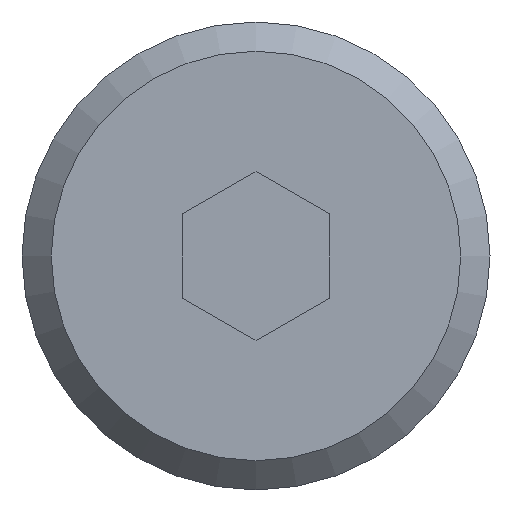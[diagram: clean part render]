
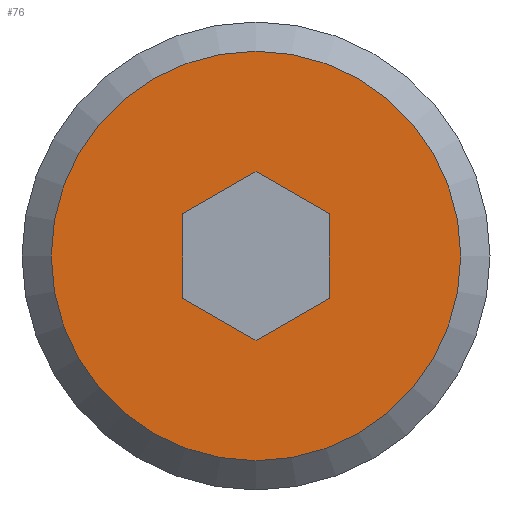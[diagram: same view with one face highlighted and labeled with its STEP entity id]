
A CAD part, front view. The second image highlights one B-rep face of the part: STEP entity #76.
In plain terms, the highlighted planar face has unit normal (0, -1, 0).
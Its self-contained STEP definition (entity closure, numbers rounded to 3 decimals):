
#76 = ADVANCED_FACE( '', ( #94, #95 ), #96, .F. );
#94 = FACE_OUTER_BOUND( '', #132, .T. );
#95 = FACE_BOUND( '', #133, .T. );
#96 = PLANE( '', #134 );
#132 = EDGE_LOOP( '', ( #172 ) );
#133 = EDGE_LOOP( '', ( #173, #174, #175, #176, #177, #178 ) );
#134 = AXIS2_PLACEMENT_3D( '', #179, #180, #181 );
#172 = ORIENTED_EDGE( '', *, *, #264, .F. );
#173 = ORIENTED_EDGE( '', *, *, #265, .T. );
#174 = ORIENTED_EDGE( '', *, *, #266, .T. );
#175 = ORIENTED_EDGE( '', *, *, #267, .T. );
#176 = ORIENTED_EDGE( '', *, *, #268, .T. );
#177 = ORIENTED_EDGE( '', *, *, #269, .T. );
#178 = ORIENTED_EDGE( '', *, *, #270, .T. );
#179 = CARTESIAN_POINT( '', ( 0., 0., 0. ) );
#180 = DIRECTION( '', ( 0., 1., 0. ) );
#181 = DIRECTION( '', ( 0., 0., 1. ) );
#264 = EDGE_CURVE( '', #291, #291, #292, .T. );
#265 = EDGE_CURVE( '', #293, #294, #295, .T. );
#266 = EDGE_CURVE( '', #294, #296, #297, .T. );
#267 = EDGE_CURVE( '', #296, #298, #299, .T. );
#268 = EDGE_CURVE( '', #298, #300, #301, .T. );
#269 = EDGE_CURVE( '', #300, #302, #303, .T. );
#270 = EDGE_CURVE( '', #302, #293, #304, .T. );
#291 = VERTEX_POINT( '', #335 );
#292 = CIRCLE( '', #336, 7. );
#293 = VERTEX_POINT( '', #337 );
#294 = VERTEX_POINT( '', #338 );
#295 = LINE( '', #339, #340 );
#296 = VERTEX_POINT( '', #341 );
#297 = LINE( '', #342, #343 );
#298 = VERTEX_POINT( '', #344 );
#299 = LINE( '', #345, #346 );
#300 = VERTEX_POINT( '', #347 );
#301 = LINE( '', #348, #349 );
#302 = VERTEX_POINT( '', #350 );
#303 = LINE( '', #351, #352 );
#304 = LINE( '', #353, #354 );
#335 = CARTESIAN_POINT( '', ( 0., 0., 7. ) );
#336 = AXIS2_PLACEMENT_3D( '', #398, #399, #400 );
#337 = CARTESIAN_POINT( '', ( -2.5, 0., -1.443 ) );
#338 = CARTESIAN_POINT( '', ( -2.5, 0., 1.443 ) );
#339 = CARTESIAN_POINT( '', ( -2.5, 0., -1.443 ) );
#340 = VECTOR( '', #401, 1000. );
#341 = CARTESIAN_POINT( '', ( 0., 0., 2.887 ) );
#342 = CARTESIAN_POINT( '', ( -2.5, 0., 1.443 ) );
#343 = VECTOR( '', #402, 1000. );
#344 = CARTESIAN_POINT( '', ( 2.5, 0., 1.443 ) );
#345 = CARTESIAN_POINT( '', ( 0., 0., 2.887 ) );
#346 = VECTOR( '', #403, 1000. );
#347 = CARTESIAN_POINT( '', ( 2.5, 0., -1.443 ) );
#348 = CARTESIAN_POINT( '', ( 2.5, 0., 1.443 ) );
#349 = VECTOR( '', #404, 1000. );
#350 = CARTESIAN_POINT( '', ( 0., 0., -2.887 ) );
#351 = CARTESIAN_POINT( '', ( 2.5, 0., -1.443 ) );
#352 = VECTOR( '', #405, 1000. );
#353 = CARTESIAN_POINT( '', ( 0., 0., -2.887 ) );
#354 = VECTOR( '', #406, 1000. );
#398 = CARTESIAN_POINT( '', ( 0., 0., 0. ) );
#399 = DIRECTION( '', ( 0., 1., 0. ) );
#400 = DIRECTION( '', ( 0., 0., 1. ) );
#401 = DIRECTION( '', ( 0., 0., 1. ) );
#402 = DIRECTION( '', ( 0.866, 0., 0.5 ) );
#403 = DIRECTION( '', ( 0.866, 0., -0.5 ) );
#404 = DIRECTION( '', ( 0., 0., -1. ) );
#405 = DIRECTION( '', ( -0.866, 0., -0.5 ) );
#406 = DIRECTION( '', ( -0.866, 0., 0.5 ) );
